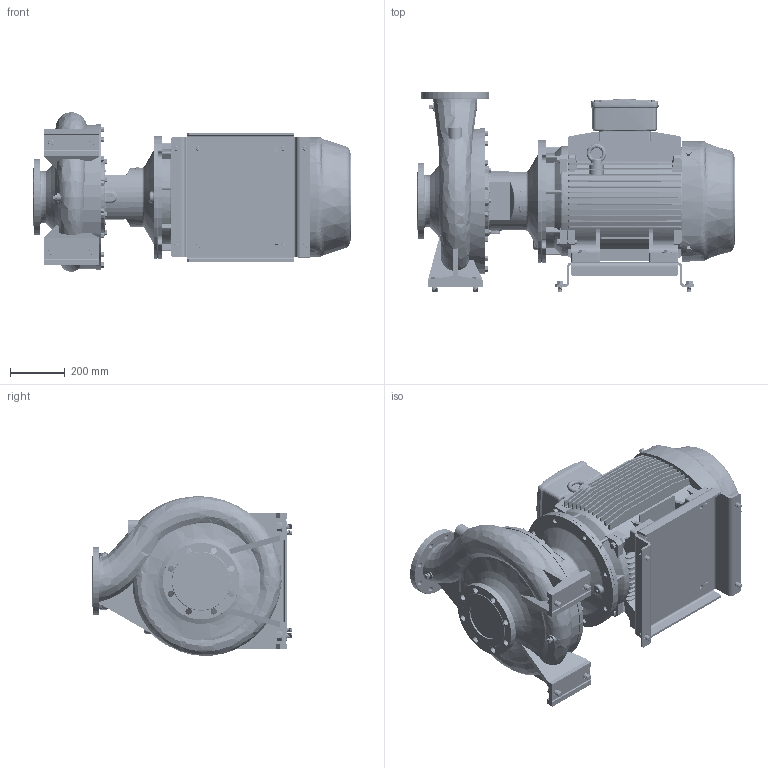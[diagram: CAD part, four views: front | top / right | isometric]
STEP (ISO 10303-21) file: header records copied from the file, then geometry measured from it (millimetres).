
FILE_DESCRIPTION (( 'STEP AP214' ), '1' );
FILE_NAME ('GSD4 125-400_37 & 45_(225SM)_W21.STEP', '2026-07-01T02:58:32', ( '' ), ( '' ), 'SwSTEP 2.0', 'SolidWorks 2024', '' );
FILE_SCHEMA (( 'AUTOMOTIVE_DESIGN' ));
Length unit declared in the file: millimetre
Products named in the file (12): CGS11-5283; GSD4 125-400_37 & 45_(225SM)_W21; Parametric bolt and washer_SFT-A359B; 125-400-225S_M_ﾃﾞﾌｫﾙﾄ; 225S_M4P IE3_W21T_B35; Parametric bolt_SFT-A359B; Parametric Flat Washer_M16; Parametric bolt_SFT-A351B; Parametric bolt_SFT-A403B; Parametric bolt and washer_SFT-A351B; Parametric Flat Washer_M20; Parametric bolt and washer_SFT-A403B
Assembly tree (21 placements, depth 3):
  GSD4 125-400_37 & 45_(225SM)_W21
    125-400-225S_M_ﾃﾞﾌｫﾙﾄ
    225S_M4P IE3_W21T_B35
    CGS11-5283
    Parametric bolt and washer_SFT-A359B  x4
      Parametric bolt_SFT-A359B
      Parametric Flat Washer_M16
    Parametric bolt and washer_SFT-A351B  x4
      Parametric bolt_SFT-A351B
      Parametric Flat Washer_M16
    Parametric bolt and washer_SFT-A403B  x4
      Parametric bolt_SFT-A403B
      Parametric Flat Washer_M20
Bounding box: 1164.5 x 733 x 584.34 mm (x, y, z)
Volume: 153788418.3 mm3; surface area: 5618472.4 mm2
Topology: 36 solids, 41 shells, 4494 faces, 11770 edges, 7506 vertices
Faces by surface type: plane 1803, cylinder 1537, cone 556, bspline 298, torus 282, sphere 18
Entity records: 173937 total; most frequent: CARTESIAN_POINT 81313, ORIENTED_EDGE 20218, DIRECTION 18460, EDGE_CURVE 10109, AXIS2_PLACEMENT_3D 6803, VERTEX_POINT 6435, VECTOR 4854, LINE 4854
